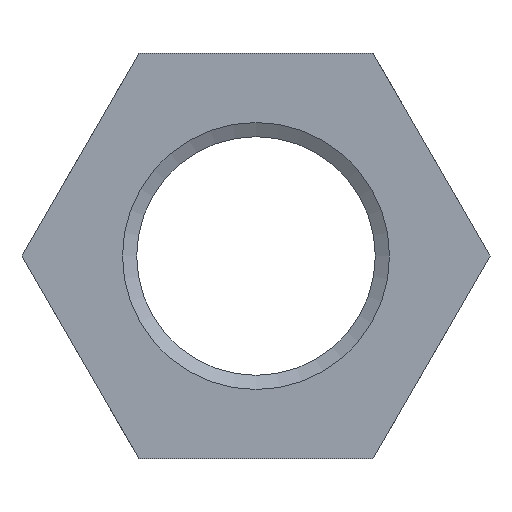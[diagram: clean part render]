
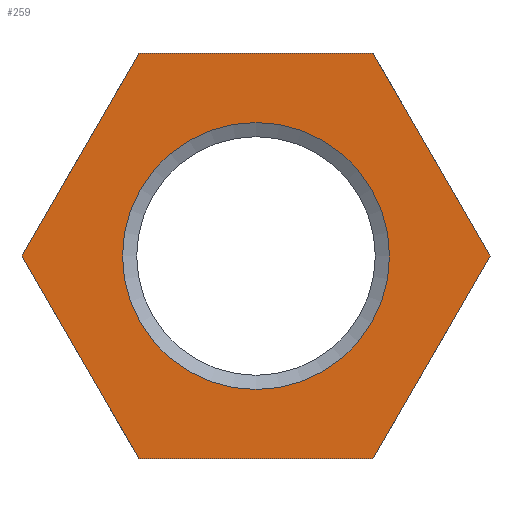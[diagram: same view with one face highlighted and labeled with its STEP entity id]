
A CAD part, front view. The second image highlights one B-rep face of the part: STEP entity #259.
In plain terms, the highlighted planar face has unit normal (0, -1, 0).
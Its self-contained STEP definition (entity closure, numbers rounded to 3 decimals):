
#14=LINE($,#435,#26);
#17=LINE($,#440,#29);
#19=LINE($,#444,#31);
#21=LINE($,#448,#33);
#23=LINE($,#452,#35);
#24=LINE($,#454,#36);
#26=VECTOR($,#334,49.075);
#29=VECTOR($,#339,49.075);
#31=VECTOR($,#343,49.075);
#33=VECTOR($,#347,49.075);
#35=VECTOR($,#351,49.075);
#36=VECTOR($,#354,49.075);
#43=PLANE($,#289);
#61=FACE_BOUND($,#98,.T.);
#62=FACE_BOUND($,#99,.T.);
#98=EDGE_LOOP($,(#222));
#99=EDGE_LOOP($,(#223,#224,#225,#226,#227,#228));
#102=CIRCLE($,#265,28.);
#112=VERTEX_POINT($,#361);
#128=VERTEX_POINT($,#432);
#129=VERTEX_POINT($,#434);
#130=VERTEX_POINT($,#438);
#131=VERTEX_POINT($,#442);
#132=VERTEX_POINT($,#446);
#133=VERTEX_POINT($,#450);
#134=EDGE_CURVE($,#112,#112,#102,.T.);
#157=EDGE_CURVE($,#129,#128,#14,.T.);
#160=EDGE_CURVE($,#128,#130,#17,.T.);
#162=EDGE_CURVE($,#130,#131,#19,.T.);
#164=EDGE_CURVE($,#131,#132,#21,.T.);
#166=EDGE_CURVE($,#132,#133,#23,.T.);
#167=EDGE_CURVE($,#133,#129,#24,.T.);
#222=ORIENTED_EDGE($,*,*,#134,.T.);
#223=ORIENTED_EDGE($,*,*,#162,.T.);
#224=ORIENTED_EDGE($,*,*,#164,.T.);
#225=ORIENTED_EDGE($,*,*,#166,.T.);
#226=ORIENTED_EDGE($,*,*,#167,.T.);
#227=ORIENTED_EDGE($,*,*,#157,.T.);
#228=ORIENTED_EDGE($,*,*,#160,.T.);
#259=ADVANCED_FACE($,(#61,#62),#43,.F.);
#265=AXIS2_PLACEMENT_3D($,#362,#295,#296);
#289=AXIS2_PLACEMENT_3D($,#455,#355,#356);
#295=DIRECTION('center_axis',(0.,1.,0.));
#296=DIRECTION('ref_axis',(-1.,0.,0.));
#334=DIRECTION($,(-1.,0.,0.));
#339=DIRECTION($,(-0.5,0.,-0.866));
#343=DIRECTION($,(0.5,0.,-0.866));
#347=DIRECTION($,(1.,0.,0.));
#351=DIRECTION($,(0.5,0.,0.866));
#354=DIRECTION($,(-0.5,0.,0.866));
#355=DIRECTION('center_axis',(0.,1.,0.));
#356=DIRECTION('ref_axis',(0.,0.,1.));
#361=CARTESIAN_POINT('',(-28.,0.,0.));
#362=CARTESIAN_POINT('Origin',(0.,0.,0.));
#432=CARTESIAN_POINT('',(-24.537,0.,42.5));
#434=CARTESIAN_POINT('',(24.537,0.,42.5));
#435=CARTESIAN_POINT($,(24.537,0.,42.5));
#438=CARTESIAN_POINT('',(-49.075,0.,0.));
#440=CARTESIAN_POINT($,(-24.537,0.,42.5));
#442=CARTESIAN_POINT('',(-24.537,0.,-42.5));
#444=CARTESIAN_POINT($,(-49.075,0.,0.));
#446=CARTESIAN_POINT('',(24.537,0.,-42.5));
#448=CARTESIAN_POINT($,(-24.537,0.,-42.5));
#450=CARTESIAN_POINT('',(49.075,0.,0.));
#452=CARTESIAN_POINT($,(24.537,0.,-42.5));
#454=CARTESIAN_POINT($,(49.075,0.,0.));
#455=CARTESIAN_POINT('Origin',(0.,0.,0.));
